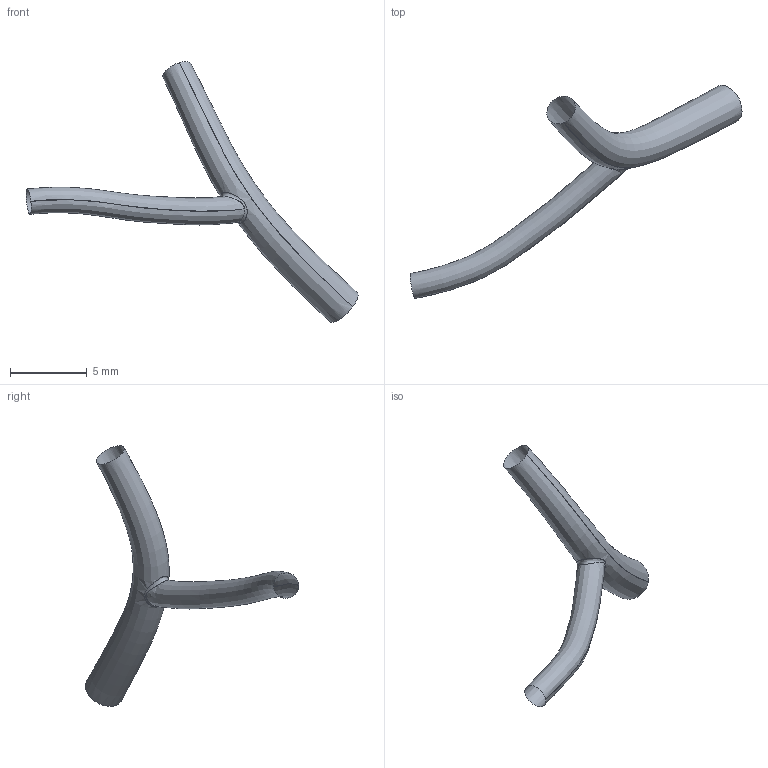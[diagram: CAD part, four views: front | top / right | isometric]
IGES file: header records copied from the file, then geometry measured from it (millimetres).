
Global section: file name: C:\Documents and Settings\Administrator\Desktop\FDA Bifurcation win\RawData_for_IGES\HRCA_Data\20030611.195803\IGES\20030611.195803.PDA.BIFUR.ED.igs; native system: Rhinoceros ( May 19 2006 ); preprocessor: Trout Lake IGES 012 May 19 2006; date: 100728.223216; units: centimetre
Bounding box: 21.64 x 13.91 x 16.99 mm (x, y, z)
Surface area: 232.5 mm2 (no closed solid volume)
Topology: 0 solids, 0 shells, 3 faces, 37 edges, 32 vertices
Faces by surface type: bspline 3
